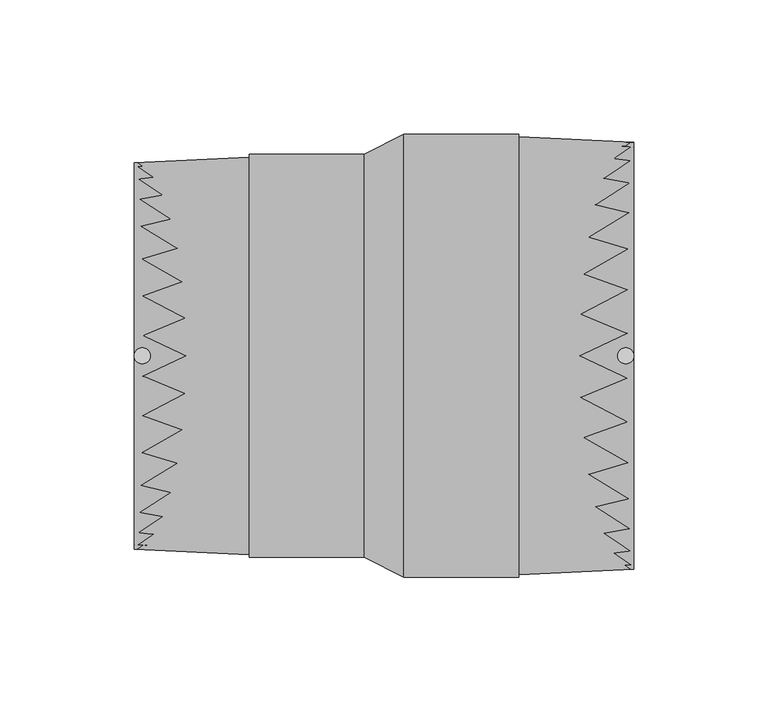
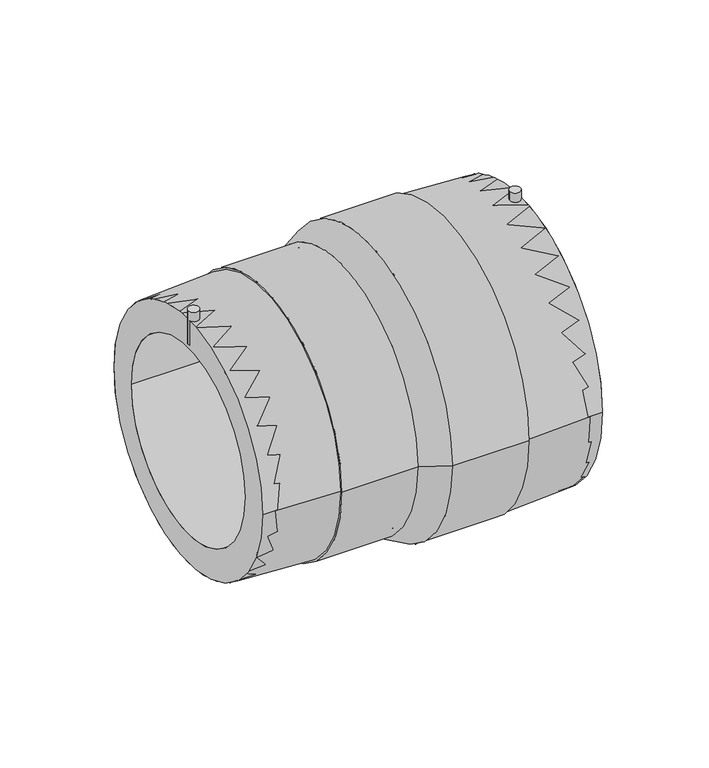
"""IFC4 building model written with IfcOpenShell, lengths in millimetres: pipe fitting geometry, EGB_VASEN_ PPR_Manguito reductor electrosoldable WXRD110 : Manguito reductor electrosoldable WXRD110."""

from ifc_helpers import new_model, si_unit, point, frame, frame_2d, origin, origin_2d, place, context, project, spatial, polyline, circle_curve, trimmed, segment, composite_curve, outline, extrude, source, transform, mapped, element, save
from ifc_brep_helpers import plane_surface, cylinder_surface, revolved_surface, advanced_brep


def pipe_fitting_cf93d75f(model_context):
    return source(origin(), model_context, "Body", "SolidModel", [
        extrude(outline(composite_curve([segment(trimmed(circle_curve(frame_2d((90.0, 0.0)), 3.0), [point((87.0, 0.0))], [point((93.0, 0.0))], False, "CARTESIAN"), True, "CONTINUOUS"), segment(trimmed(circle_curve(frame_2d((90.0, 0.0)), 3.0), [point((93.0, 0.0))], [point((87.0, 0.0))], False, "CARTESIAN"), True, "CONTINUOUS")], self_intersect=False)), frame((0.0, 0.0, 64.5), z_axis=(0.0, 0.0, 1.0), x_axis=(1.0, 0.0, 0.0)), (0.0, 0.0, 1.0), 20.0),
        extrude(outline(composite_curve([segment(trimmed(circle_curve(frame_2d((-90.0, 0.0)), 3.0), [point((-93.0, 0.0))], [point((-87.0, 0.0))], False, "CARTESIAN"), True, "CONTINUOUS"), segment(trimmed(circle_curve(frame_2d((-90.0, 0.0)), 3.0), [point((-87.0, 0.0))], [point((-93.0, 0.0))], False, "CARTESIAN"), True, "CONTINUOUS")], self_intersect=False)), frame((0.0, 0.0, 57.0), z_axis=(0.0, 0.0, 1.0), x_axis=(1.0, 0.0, 0.0)), (0.0, 0.0, 1.0), 20.0),
        extrude(outline(composite_curve([segment(trimmed(circle_curve(origin_2d(), 79.5), [point((-79.5, 0.0))], [point((79.5, 0.0))], False, "CARTESIAN"), True, "CONTINUOUS"), segment(trimmed(circle_curve(origin_2d(), 79.5), [point((79.5, 0.0))], [point((-79.5, 0.0))], False, "CARTESIAN"), True, "CONTINUOUS")], self_intersect=False), holes=[composite_curve([segment(trimmed(circle_curve(origin_2d(), 62.5), [point((-62.5, 0.0))], [point((62.5, 0.0))], True, "CARTESIAN"), True, "CONTINUOUS"), segment(trimmed(circle_curve(origin_2d(), 62.5), [point((62.5, 0.0))], [point((-62.5, 0.0))], True, "CARTESIAN"), True, "CONTINUOUS")], self_intersect=False)]), frame((7.44, 0.0, 0.0), z_axis=(1.0, 0.0, 0.0), x_axis=(0.0, 1.0, 0.0)), (0.0, 0.0, 1.0), 85.56),
        extrude(outline(composite_curve([segment(trimmed(circle_curve(origin_2d(), 72.0), [point((-72.0, 0.0))], [point((72.0, 0.0))], False, "CARTESIAN"), True, "CONTINUOUS"), segment(trimmed(circle_curve(origin_2d(), 72.0), [point((72.0, 0.0))], [point((-72.0, 0.0))], False, "CARTESIAN"), True, "CONTINUOUS")], self_intersect=False), holes=[composite_curve([segment(trimmed(circle_curve(origin_2d(), 55.0), [point((-55.0, 0.0))], [point((55.0, 0.0))], True, "CARTESIAN"), True, "CONTINUOUS"), segment(trimmed(circle_curve(origin_2d(), 55.0), [point((55.0, 0.0))], [point((-55.0, 0.0))], True, "CARTESIAN"), True, "CONTINUOUS")], self_intersect=False)]), frame((-93.0, 0.0, 0.0), z_axis=(1.0, 0.0, 0.0), x_axis=(0.0, 1.0, 0.0)), (0.0, 0.0, 1.0), 85.56),
        advanced_brep(
        [(7.44, -79.5, 0.0), (7.44, 79.5, 0.0), (-7.44, -72.0, 0.0), (-7.44, 72.0, 0.0)],
        [
            (0, 1, circle_curve(frame((7.44, 0.0, 0.0), z_axis=(1.0, 0.0, 0.0), x_axis=(0.0, -1.0, 0.0)), 79.5)),
            (1, 0, circle_curve(frame((7.44, 0.0, 0.0), z_axis=(1.0, 0.0, 0.0), x_axis=(0.0, 1.0, 0.0)), 79.5)),
            (2, 3, circle_curve(frame((-7.44, 0.0, 0.0), z_axis=(-1.0, 0.0, 0.0), x_axis=(0.0, 1.0, 0.0)), 72.0)),
            (3, 2, circle_curve(frame((-7.44, 0.0, 0.0), z_axis=(-1.0, 0.0, 0.0), x_axis=(0.0, -1.0, 0.0)), 72.0)),
            (3, 1),
            (0, 2),
        ],
        [
            plane_surface(frame((7.44, 0.0, 0.0), z_axis=(1.0, 0.0, 0.0), x_axis=(0.0, 0.0, -1.0))),
            plane_surface(frame((-7.44, 0.0, 0.0), z_axis=(-1.0, 0.0, 0.0), x_axis=(0.0, 0.0, -1.0))),
            revolved_surface(polyline([(-7.439999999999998, 72.0, 0.0), (7.439999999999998, 79.5, 0.0)]), (-150.288, 0.0, 0.0), (1.0, 0.0, 0.0)),
            revolved_surface(polyline([(-7.439999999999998, -72.0, 0.0), (7.439999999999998, -79.5, 0.0)]), (-150.288, 0.0, 0.0), (1.0, 0.0, 0.0)),
        ],
        [
            (0, [[1, 2]]),
            (1, [[3, 4]]),
            (2, [[-4, 5, -1, 6]]),
            (3, [[-3, -6, -2, -5]]),
        ],
    ),
        advanced_brep(
        [(7.44, -79.5, 0.0), (7.44, 79.5, 0.0), (-7.44, 72.0, 0.0), (-7.44, -72.0, 0.0), (93.0, -79.5, 0.0), (93.0, 79.5, 0.0), (50.22, -81.5, 0.0), (50.22, 81.5, 0.0), (50.22, -82.5, 0.0), (50.22, 82.5, 0.0), (7.44, -82.5, 0.0), (7.44, 82.5, 0.0), (-7.44, -75.0, 0.0), (-7.44, 75.0, 0.0), (-50.22, -75.0, 0.0), (-50.22, 75.0, 0.0), (-50.22, -74.0, 0.0), (-50.22, 74.0, 0.0), (-93.0, -72.0, 0.0), (-93.0, 72.0, 0.0)],
        [
            (0, 1, circle_curve(frame((7.44, 0.0, 0.0), z_axis=(1.0, 0.0, 0.0), x_axis=(0.0, 1.0, 0.0)), 79.5)),
            (1, 2),
            (2, 3, circle_curve(frame((-7.44, 0.0, 0.0), z_axis=(-1.0, 0.0, 0.0), x_axis=(0.0, 1.0, 0.0)), 72.0)),
            (3, 0),
            (1, 0, circle_curve(frame((7.44, 0.0, 0.0), z_axis=(1.0, 0.0, 0.0), x_axis=(0.0, 1.0, 0.0)), 79.5)),
            (3, 2, circle_curve(frame((-7.44, 0.0, 0.0), z_axis=(-1.0, 0.0, 0.0), x_axis=(0.0, 1.0, 0.0)), 72.0)),
            (4, 5, circle_curve(frame((93.0, 0.0, 0.0), z_axis=(1.0, 0.0, 0.0), x_axis=(0.0, 1.0, 0.0)), 79.5)),
            (5, 1),
            (0, 4),
            (5, 4, circle_curve(frame((93.0, 0.0, 0.0), z_axis=(1.0, 0.0, 0.0), x_axis=(0.0, 1.0, 0.0)), 79.5)),
            (6, 7, circle_curve(frame((50.22, 0.0, 0.0), z_axis=(1.0, 0.0, 0.0), x_axis=(0.0, 1.0, 0.0)), 81.5)),
            (7, 5),
            (4, 6),
            (7, 6, circle_curve(frame((50.22, 0.0, 0.0), z_axis=(1.0, 0.0, 0.0), x_axis=(0.0, 1.0, 0.0)), 81.5)),
            (8, 9, circle_curve(frame((50.22, 0.0, 0.0), z_axis=(1.0, 0.0, 0.0), x_axis=(0.0, 1.0, 0.0)), 82.5)),
            (9, 7),
            (6, 8),
            (9, 8, circle_curve(frame((50.22, 0.0, 0.0), z_axis=(1.0, 0.0, 0.0), x_axis=(0.0, 1.0, 0.0)), 82.5)),
            (10, 11, circle_curve(frame((7.44, 0.0, 0.0), z_axis=(1.0, 0.0, 0.0), x_axis=(0.0, 1.0, 0.0)), 82.5)),
            (11, 9),
            (8, 10),
            (11, 10, circle_curve(frame((7.44, 0.0, 0.0), z_axis=(1.0, 0.0, 0.0), x_axis=(0.0, 1.0, 0.0)), 82.5)),
            (12, 13, circle_curve(frame((-7.44, 0.0, 0.0), z_axis=(1.0, 0.0, 0.0), x_axis=(0.0, 1.0, 0.0)), 75.0)),
            (13, 11),
            (10, 12),
            (13, 12, circle_curve(frame((-7.44, 0.0, 0.0), z_axis=(1.0, 0.0, 0.0), x_axis=(0.0, 1.0, 0.0)), 75.0)),
            (14, 15, circle_curve(frame((-50.22, 0.0, 0.0), z_axis=(1.0, 0.0, 0.0), x_axis=(0.0, 1.0, 0.0)), 75.0)),
            (15, 13),
            (12, 14),
            (15, 14, circle_curve(frame((-50.22, 0.0, 0.0), z_axis=(1.0, 0.0, 0.0), x_axis=(0.0, 1.0, 0.0)), 75.0)),
            (16, 17, circle_curve(frame((-50.22, 0.0, 0.0), z_axis=(1.0, 0.0, 0.0), x_axis=(0.0, 1.0, 0.0)), 74.0)),
            (17, 15),
            (14, 16),
            (17, 16, circle_curve(frame((-50.22, 0.0, 0.0), z_axis=(1.0, 0.0, 0.0), x_axis=(0.0, 1.0, 0.0)), 74.0)),
            (18, 19, circle_curve(frame((-93.0, 0.0, 0.0), z_axis=(1.0, 0.0, 0.0), x_axis=(0.0, 1.0, 0.0)), 72.0)),
            (19, 17),
            (16, 18),
            (19, 18, circle_curve(frame((-93.0, 0.0, 0.0), z_axis=(1.0, 0.0, 0.0), x_axis=(0.0, 1.0, 0.0)), 72.0)),
            (2, 19),
            (18, 3),
        ],
        [
            revolved_surface(polyline([(-7.44, 72.0, 0.0), (7.44, 79.5, 0.0)]), (-128.0, 0.0, 0.0), (-1.0, 0.0, 0.0)),
            revolved_surface(polyline([(7.439999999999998, 79.5, 0.0), (93.0, 79.5, 0.0)]), (-128.0, 0.0, 0.0), (-1.0, 0.0, 0.0)),
            revolved_surface(polyline([(93.0, 79.5, 0.0), (50.22, 81.5, 0.0)]), (-128.0, 0.0, 0.0), (-1.0, 0.0, 0.0)),
            plane_surface(frame((50.22, 0.0, 0.0), z_axis=(1.0, 0.0, 0.0), x_axis=(0.0, 1.0, 0.0))),
            cylinder_surface(frame((-128.0, 0.0, 0.0), z_axis=(-1.0, 0.0, 0.0), x_axis=(0.0, 1.0, 0.0)), 82.5),
            revolved_surface(polyline([(7.44, 82.5, 0.0), (-7.44, 75.0, 0.0)]), (-128.0, 0.0, 0.0), (-1.0, 0.0, 0.0)),
            cylinder_surface(frame((-128.0, 0.0, 0.0), z_axis=(-1.0, 0.0, 0.0), x_axis=(0.0, 1.0, 0.0)), 75.0),
            plane_surface(frame((-50.22, 0.0, 0.0), z_axis=(-1.0, 0.0, 0.0), x_axis=(0.0, 1.0, 0.0))),
            revolved_surface(polyline([(-50.22, 74.0, 0.0), (-93.0, 72.0, 0.0)]), (-128.0, 0.0, 0.0), (-1.0, 0.0, 0.0)),
            revolved_surface(polyline([(-93.0, 72.0, 0.0), (-7.439999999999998, 72.0, 0.0)]), (-128.0, 0.0, 0.0), (-1.0, 0.0, 0.0)),
        ],
        [
            (0, [[1, 2, 3, 4]]),
            (0, [[5, -4, 6, -2]]),
            (1, [[7, 8, -1, 9]]),
            (1, [[10, -9, -5, -8]]),
            (2, [[11, 12, -7, 13]]),
            (2, [[14, -13, -10, -12]]),
            (3, [[15, 16, -11, 17]]),
            (3, [[18, -17, -14, -16]]),
            (4, [[19, 20, -15, 21]]),
            (4, [[22, -21, -18, -20]]),
            (5, [[23, 24, -19, 25]]),
            (5, [[26, -25, -22, -24]]),
            (6, [[27, 28, -23, 29]]),
            (6, [[30, -29, -26, -28]]),
            (7, [[31, 32, -27, 33]]),
            (7, [[34, -33, -30, -32]]),
            (8, [[35, 36, -31, 37]]),
            (8, [[38, -37, -34, -36]]),
            (9, [[-3, 39, -35, 40]]),
            (9, [[-6, -40, -38, -39]]),
        ],
    ),
    ])


if __name__ == "__main__":
    model = new_model("IFC4")
    model_context = context("Model", 3, world=origin())
    ifc_project = project(units=[si_unit("LENGTHUNIT", "METRE", prefix="MILLI")], contexts=[model_context])
    site = spatial("IfcSite", under=ifc_project)
    building = spatial("IfcBuilding", under=site)
    placement = place(None, origin())
    pipe_fitting_shape = pipe_fitting_cf93d75f(model_context)
    element("IfcPipeFitting", 1, ObjectType="EGB_VASEN_ PPR_Manguito reductor electrosoldable WXRD110 : Manguito reductor electrosoldable WXRD110", at=placement, inside=building, context=model_context, shape_type="MappedRepresentation", body=[
        mapped(pipe_fitting_shape, transform((0.0, 0.0, 0.0), x_axis=(1.0, 0.0, 0.0), y_axis=(0.0, 1.0, 0.0), z_axis=(0.0, 0.0, 1.0))),
    ])
    save(model, "model.ifc")
